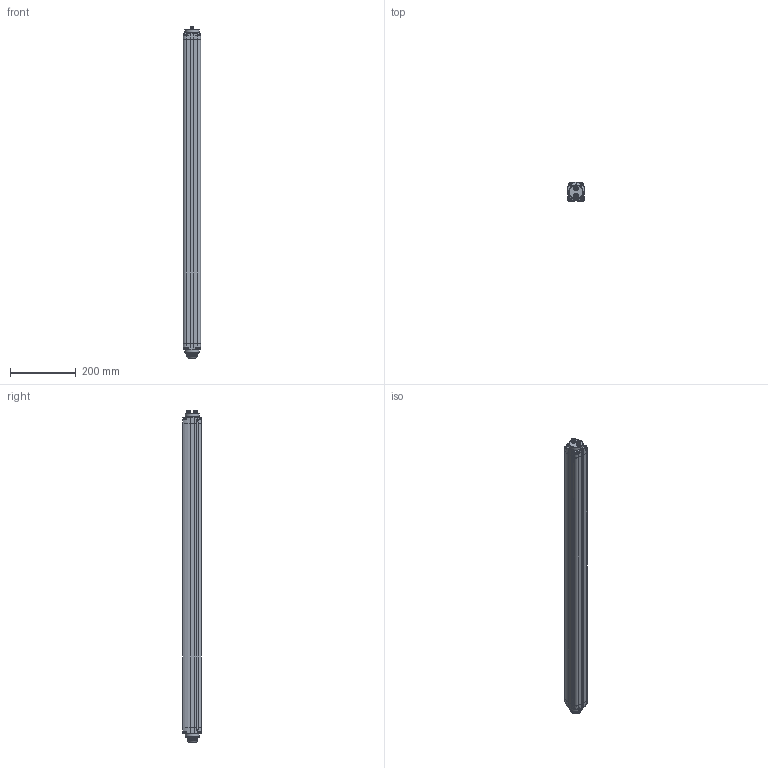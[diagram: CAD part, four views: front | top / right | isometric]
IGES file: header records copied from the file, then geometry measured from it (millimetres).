
Global section: file name: C:\Documents and Settings\LRossetti\Desktop\SG Body DSD\DSD-0241.igs; native system: NX V7.5; preprocessor: SIEMENS PLM Software NX 7.5; date: 20110524.133107; units: millimetre
Bounding box: 52 x 56.93 x 1006.4 mm (x, y, z)
Surface area: 254111.3 mm2 (no closed solid volume)
Topology: 0 solids, 0 shells, 1064 faces, 6584 edges, 6454 vertices
Faces by surface type: bspline 1064
